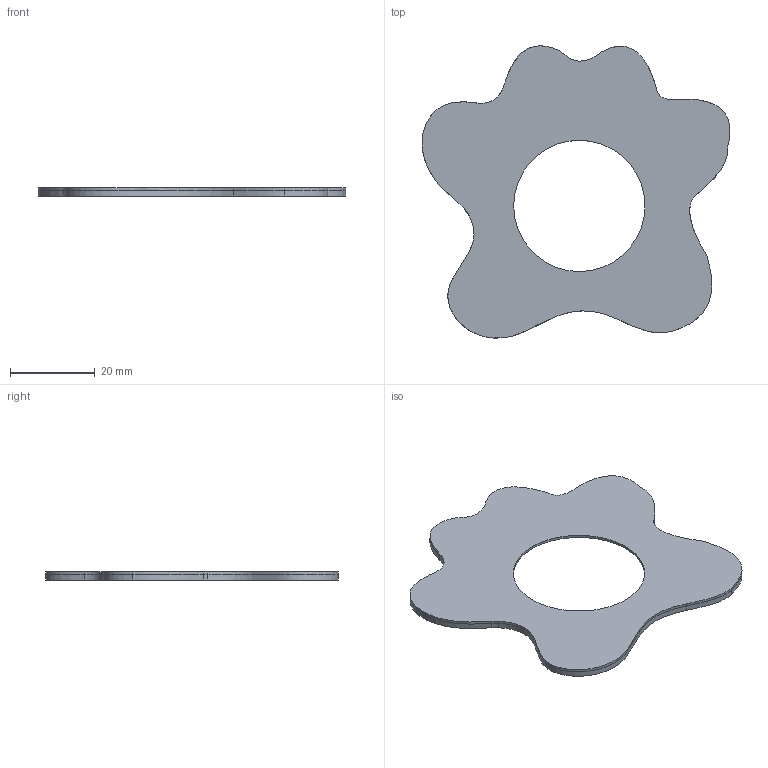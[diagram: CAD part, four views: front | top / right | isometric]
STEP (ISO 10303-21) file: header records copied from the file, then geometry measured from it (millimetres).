
FILE_DESCRIPTION(('HOOPS Exchange Step'),'2;1');
FILE_NAME('C:\Users\Alvin Nguyen\AppData\Local\Packages\Shapr3D.Shapr3D_dvv5p1vgwv6mp\TempState\export\temp_export','2026-07-04T23:54:53+19:00',('Alvin Nguyen'),('Shapr3D Limited'),'HOOPS Exchange 2026.3','Shapr3D','Authorized');
FILE_SCHEMA( ('AP242_MANAGED_MODEL_BASED_3D_ENGINEERING_MIM_LF {1 0 10303 442 1 1 4}') );
Length unit declared in the file: millimetre
Products named in the file (1): top
Bounding box: 72.66 x 69 x 1.9 mm (x, y, z)
Volume: 4967.5 mm3; surface area: 6572.8 mm2
Topology: 1 solids, 1 shells, 40 faces, 105 edges, 69 vertices
Faces by surface type: bspline 26, plane 7, cylinder 7
Full cylindrical faces by diameter (mm): 31 x1
Entity records: 2752 total; most frequent: CARTESIAN_POINT 1889, ORIENTED_EDGE 210, EDGE_CURVE 105, DIRECTION 100, VERTEX_POINT 69, B_SPLINE_CURVE_WITH_KNOTS 51, EDGE_LOOP 44, FACE_BOUND 44
